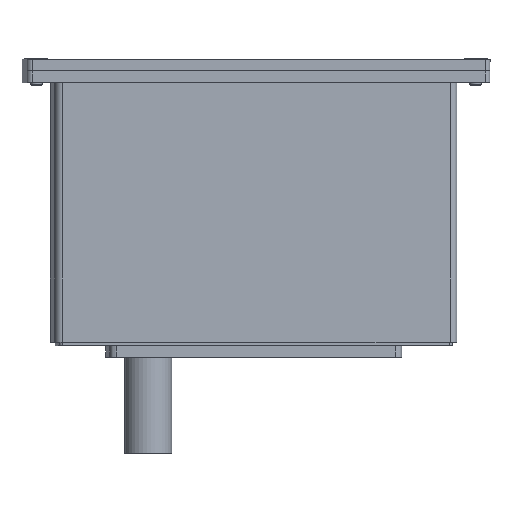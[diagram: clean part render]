
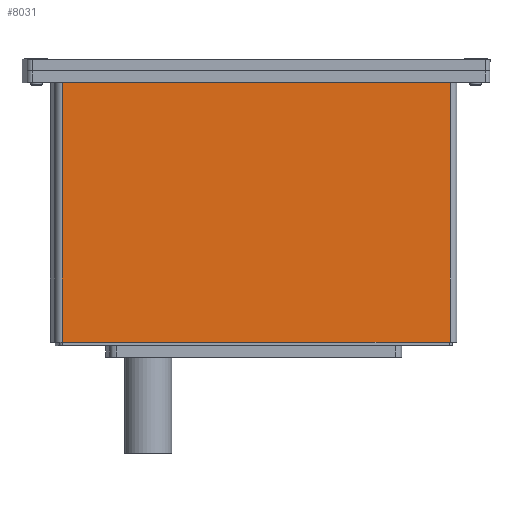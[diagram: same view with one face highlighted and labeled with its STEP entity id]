
A CAD part, front view. The second image highlights one B-rep face of the part: STEP entity #8031.
In plain terms, the highlighted planar face has unit normal (0.039, -0.999, 0) as drawn and (0, -1, 0) by its records, which use the part's own axes.
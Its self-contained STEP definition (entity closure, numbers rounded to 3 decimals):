
#7973=CARTESIAN_POINT('',(144.068,-42.974,111.));
#7974=VERTEX_POINT('',#7973);
#7982=CARTESIAN_POINT('',(144.068,-42.974,0.0));
#7983=VERTEX_POINT('',#7982);
#7984=CARTESIAN_POINT('',(144.068,-42.974,0.0));
#7985=DIRECTION('',(0.0,0.0,1.0));
#7986=VECTOR('',#7985,111.);
#7987=LINE('',#7984,#7986);
#7988=EDGE_CURVE('',#7983,#7974,#7987,.T.);
#8001=CARTESIAN_POINT('',(144.068,-42.974,0.0));
#8002=DIRECTION('',(0.0,-1.0,0.0));
#8003=DIRECTION('',(0.0,0.0,-1.0));
#8004=AXIS2_PLACEMENT_3D('',#8001,#8002,#8003);
#8005=PLANE('',#8004);
#8006=CARTESIAN_POINT('',(-21.932,-42.974,111.));
#8007=VERTEX_POINT('',#8006);
#8008=CARTESIAN_POINT('',(144.068,-42.974,111.));
#8009=DIRECTION('',(-1.0,0.0,0.0));
#8010=VECTOR('',#8009,166.);
#8011=LINE('',#8008,#8010);
#8012=EDGE_CURVE('',#7974,#8007,#8011,.T.);
#8013=ORIENTED_EDGE('',*,*,#8012,.T.);
#8014=CARTESIAN_POINT('',(-21.932,-42.974,0.0));
#8015=VERTEX_POINT('',#8014);
#8016=CARTESIAN_POINT('',(-21.932,-42.974,0.0));
#8017=DIRECTION('',(0.0,0.0,1.0));
#8018=VECTOR('',#8017,111.);
#8019=LINE('',#8016,#8018);
#8020=EDGE_CURVE('',#8015,#8007,#8019,.T.);
#8021=ORIENTED_EDGE('',*,*,#8020,.F.);
#8022=CARTESIAN_POINT('',(-21.932,-42.974,0.0));
#8023=DIRECTION('',(1.0,0.0,0.0));
#8024=VECTOR('',#8023,166.);
#8025=LINE('',#8022,#8024);
#8026=EDGE_CURVE('',#8015,#7983,#8025,.T.);
#8027=ORIENTED_EDGE('',*,*,#8026,.T.);
#8028=ORIENTED_EDGE('',*,*,#7988,.T.);
#8029=EDGE_LOOP('',(#8013,#8021,#8027,#8028));
#8030=FACE_OUTER_BOUND('',#8029,.T.);
#8031=ADVANCED_FACE('',(#8030),#8005,.T.);
